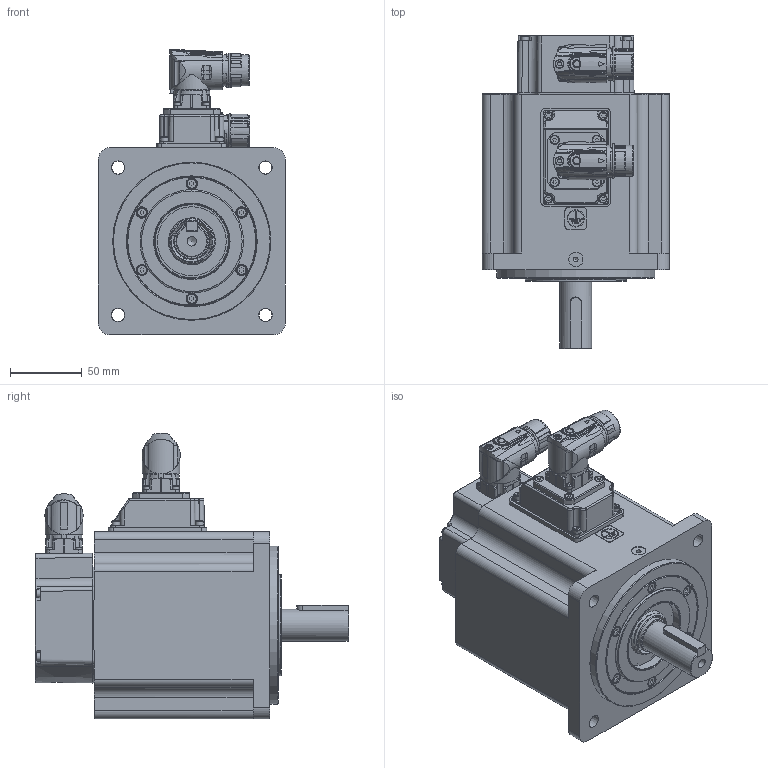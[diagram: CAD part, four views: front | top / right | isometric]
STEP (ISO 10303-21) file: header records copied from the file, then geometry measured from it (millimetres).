
FILE_DESCRIPTION( ( 'Unknown' ), '1' );
FILE_NAME( 'U:/05_Progetto TCE/010-TCE motor drawings/TCE130/Vuoti/TCE130 5F XX 3 A2 0 C2.stp', 'Unknown', ( 'Unknown' ), ( 'Unknown' ), 'PSStep 17.0.49', 'Unknown', ' ' );
FILE_SCHEMA( ( 'AUTOMOTIVE_DESIGN { 1 0 10303 214 1 1 1 1 }' ) );
Length unit declared in the file: millimetre
Products named in the file (13): 005123001528
Bounding box: 130.3 x 218 x 198.5 mm (x, y, z)
Volume: 1000529.7 mm3; surface area: 304379 mm2
Topology: 17 solids, 92 shells, 2972 faces, 7407 edges, 4777 vertices
Faces by surface type: plane 1443, cylinder 718, cone 292, bspline 231, torus 169, sphere 81, extrusion 38
Full cylindrical faces by diameter (mm): 0.5 x1, 1 x21, 1.2 x17, 1.4 x4, 2 x4, 2.013 x4, 2.2 x2, 2.459 x24, 2.5 x8, 2.6 x4, 2.8 x4, 3 x29, 3.2 x1, 3.242 x24, 3.5 x8, 4 x15, 4.134 x16, 4.4 x4, 4.5 x8, 4.7 x4, 5 x8, 5.5 x19, 5.8 x1, 5.9 x2, 6.647 x2, 6.8 x1, 7 x10, 8 x11, 8.5 x8, 10 x1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
Entity records: 122215 total; most frequent: CARTESIAN_POINT 36857, DIRECTION 13060, ORIENTED_EDGE 12726, EDGE_CURVE 6363, AXIS2_PLACEMENT_3D 4901, VERTEX_POINT 4510, EDGE_LOOP 3949, FACE_OUTER_BOUND 3438
